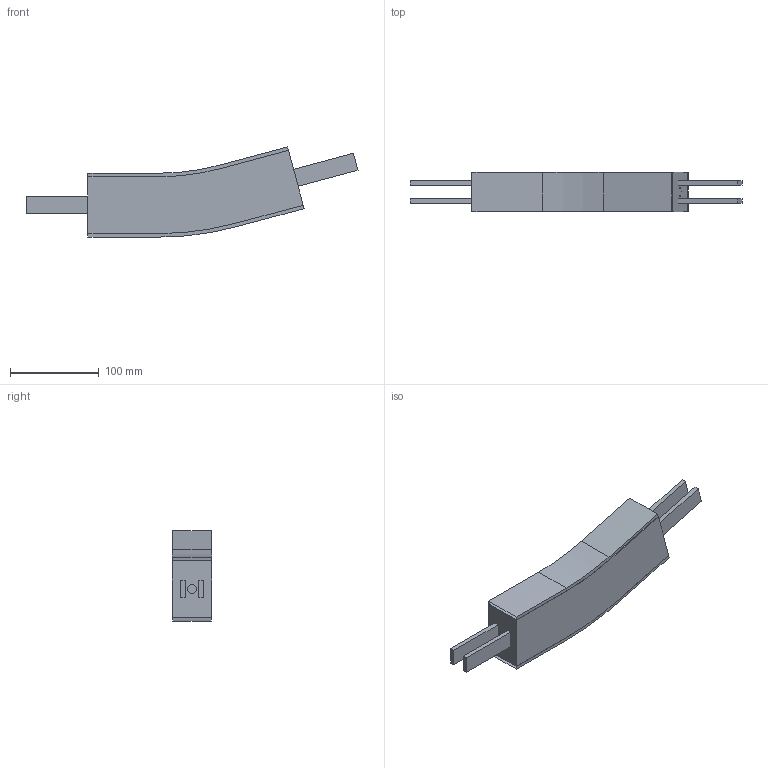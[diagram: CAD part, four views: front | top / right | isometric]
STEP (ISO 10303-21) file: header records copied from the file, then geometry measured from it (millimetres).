
FILE_DESCRIPTION(/* description */ ('Vertikaler Gleitbogen, 15°, R300'),/* implementation_level */ '2;1');
FILE_NAME(/* name */ 'T:\vdz0\Step Daten Website\modulflex FS-System\Vertikale Gleitbögen\FSBV15R300_53815.stp',/* time_stamp */ '2024-09-03T08:42:47+02:00',/* author */ ('lzb0'),/* organization */ ('modular automation GmbH'),/* preprocessor_version */ 'ST-DEVELOPER v18.1',/* originating_system */ 'Autodesk Inventor 2021',/* authorisation */ '');
FILE_SCHEMA (('AUTOMOTIVE_DESIGN { 1 0 10303 214 3 1 1 }'));
Length unit declared in the file: millimetre
Products named in the file (1): FSBV 15R300
Bounding box: 375.12 x 45 x 101.9 mm (x, y, z)
Volume: 745141.5 mm3; surface area: 133103.1 mm2
Topology: 5 solids, 9 shells, 52 faces, 126 edges, 84 vertices
Faces by surface type: plane 44, cylinder 8
Full cylindrical faces by diameter (mm): 10 x2
Entity records: 1598 total; most frequent: CARTESIAN_POINT 270, DIRECTION 250, ORIENTED_EDGE 232, EDGE_CURVE 126, LINE 110, VECTOR 110, VERTEX_POINT 84, AXIS2_PLACEMENT_3D 70
